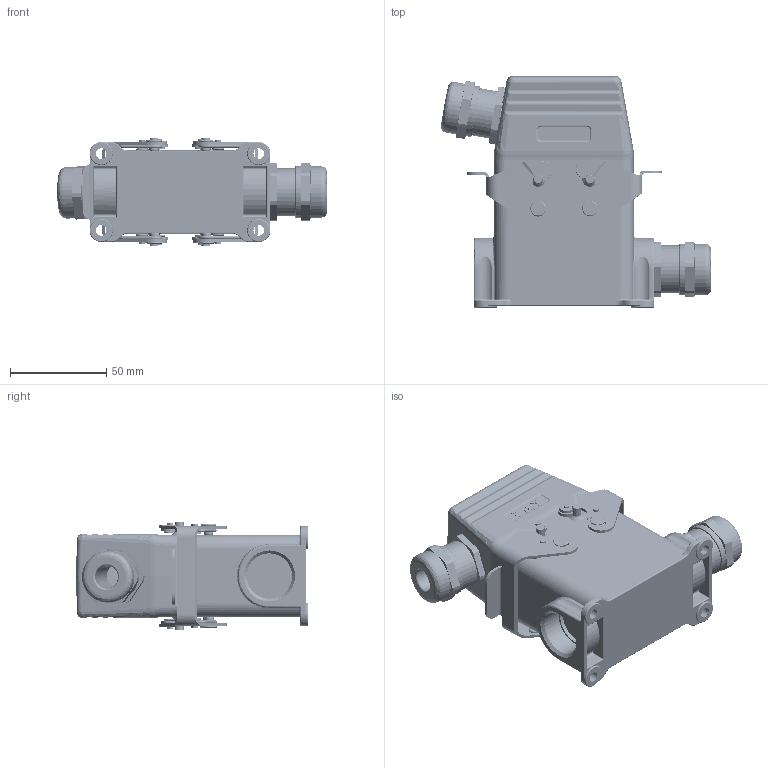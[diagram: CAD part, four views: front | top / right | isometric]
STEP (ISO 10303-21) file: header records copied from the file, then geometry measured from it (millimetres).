
FILE_DESCRIPTION (( 'STEP AP214' ), '1' );
FILE_NAME ('09010103220M HE、10针、表面底序、侧出M20套件、金属接头.STEP', '2024-05-07T02:04:15', ( 'L' ), ( '' ), 'SwSTEP 2.0', 'SolidWorks 2019', '' );
FILE_SCHEMA (( 'AUTOMOTIVE_DESIGN' ));
Length unit declared in the file: millimetre
Products named in the file (8): FAS-20-M.step.STEP; H10B-TS-M20.step.STEP; HE-010-F.stp.STEP; 09010103220M HE、10针、表面底序、侧出M20套件、金属接头; H10B-SGR-M20.step.STEP; HE-010-M.stp.STEP; 09010103220M HE、10针、表面底序、侧出M20套件、金属接头.STEP; FAS-20-M.step
Assembly tree (7 placements, depth 3):
  09010103220M HE、10针、表面底序、侧出M20套件、金属接头
    09010103220M HE、10针、表面底序、侧出M20套件、金属接头.STEP
      H10B-TS-M20.step.STEP
      HE-010-F.stp.STEP
      HE-010-M.stp.STEP
      H10B-SGR-M20.step.STEP
      FAS-20-M.step.STEP
    FAS-20-M.step
Bounding box: 140.48 x 120.6 x 56.4 mm (x, y, z)
Volume: 225542.7 mm3; surface area: 132484 mm2
Topology: 7 solids, 11 shells, 5249 faces, 14147 edges, 8886 vertices
Faces by surface type: plane 2285, cylinder 1194, bspline 902, cone 473, torus 313, sphere 82
Entity records: 219816 total; most frequent: CARTESIAN_POINT 83952, ORIENTED_EDGE 28006, DIRECTION 22492, EDGE_CURVE 14003, VERTEX_POINT 8884, AXIS2_PLACEMENT_3D 7876, LINE 6740, VECTOR 6740
